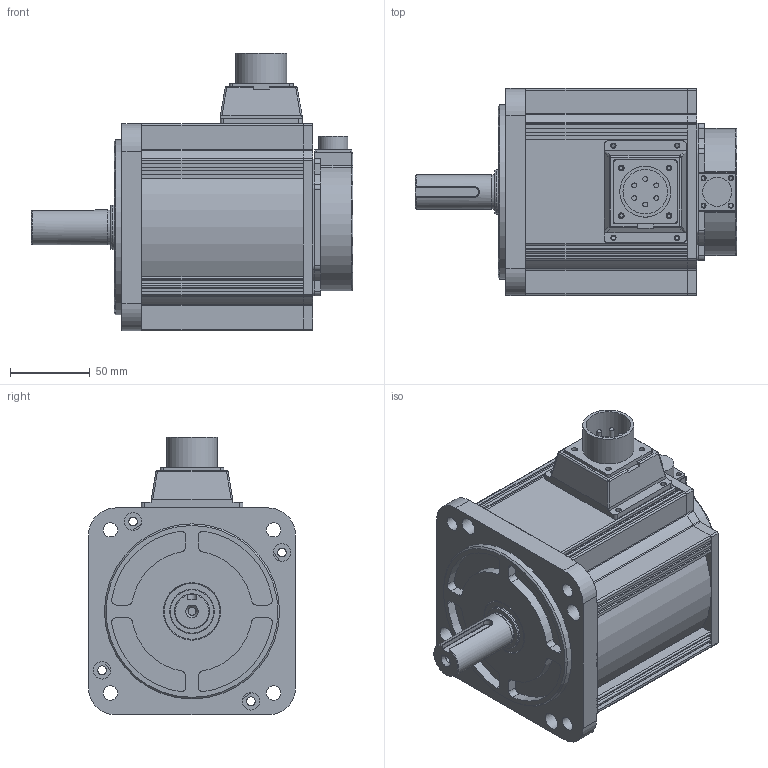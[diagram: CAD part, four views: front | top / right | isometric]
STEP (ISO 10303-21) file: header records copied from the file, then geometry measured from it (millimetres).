
FILE_DESCRIPTION (( 'STEP AP203' ), '1' );
FILE_NAME ('MS5G-130-10015-磁编非抱闸.STEP', '2019-08-31T00:02:06', ( '微软用户' ), ( '微软中国' ), 'SwSTEP 2.0', 'SolidWorks 2016', '' );
FILE_SCHEMA (( 'CONFIG_CONTROL_DESIGN' ));
Length unit declared in the file: millimetre
Products named in the file (1): MS5G-130-10015-棠晤準惕掅
Bounding box: 202 x 130 x 174.5 mm (x, y, z)
Surface area: 155778 mm2 (no closed solid volume)
Topology: 0 solids, 16 shells, 404 faces, 1175 edges, 801 vertices
Faces by surface type: plane 195, cylinder 193, cone 6, torus 5, sphere 4, bspline 1
Full cylindrical faces by diameter (mm): 2.5 x2, 3 x6, 3.2 x4, 3.3 x4, 3.5 x4, 4 x4, 5 x1, 5.5 x4, 9 x4, 11 x4, 18.2 x1, 21.6 x1, 22 x1, 28 x3, 32 x1, 35 x1, 110 x1
Entity records: 13500 total; most frequent: CARTESIAN_POINT 2875, DIRECTION 2319, ORIENTED_EDGE 1840, EDGE_CURVE 1108, AXIS2_PLACEMENT_3D 825, VERTEX_POINT 786, VECTOR 669, LINE 669
